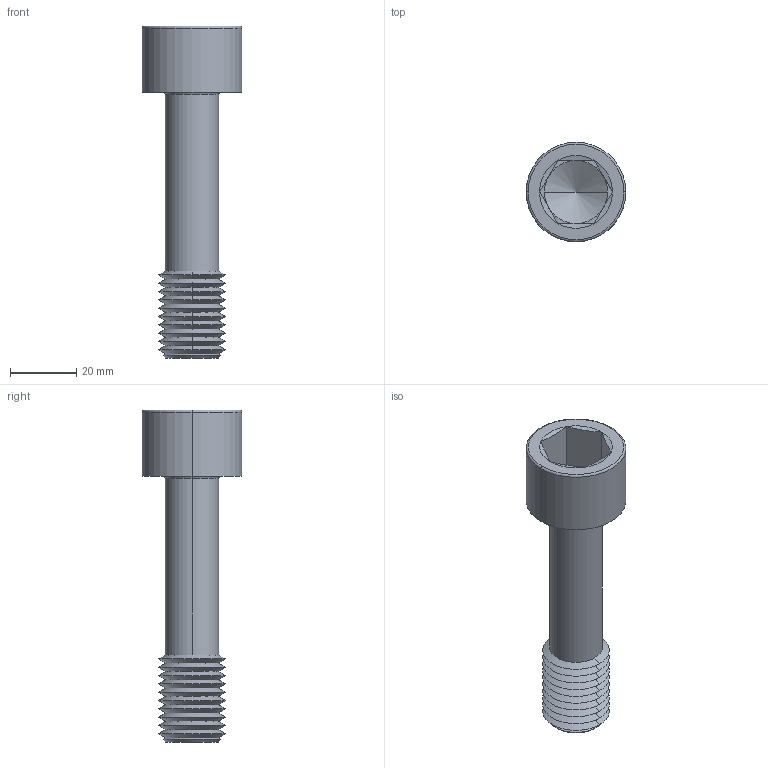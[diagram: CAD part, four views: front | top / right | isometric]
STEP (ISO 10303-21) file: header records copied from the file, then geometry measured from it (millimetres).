
FILE_DESCRIPTION (( 'STEP AP203' ), '1' );
FILE_NAME ('P0154.200-080-BL.step', '2024-06-17T11:40:20', ( '' ), ( '' ), 'SwSTEP 2.0', 'SolidWorks 2019', '' );
FILE_SCHEMA (( 'CONFIG_CONTROL_DESIGN' ));
Length unit declared in the file: millimetre
Products named in the file (1): P0154.200-080-BL
Bounding box: 30 x 30 x 100 mm (x, y, z)
Volume: 25015.7 mm3; surface area: 10136.6 mm2
Topology: 1 solids, 1 shells, 75 faces, 152 edges, 79 vertices
Faces by surface type: cone 52, plane 15, torus 4, cylinder 4
Entity records: 2011 total; most frequent: DIRECTION 372, CARTESIAN_POINT 355, ORIENTED_EDGE 300, AXIS2_PLACEMENT_3D 152, EDGE_CURVE 150, VERTEX_POINT 79, EDGE_LOOP 77, CIRCLE 76
